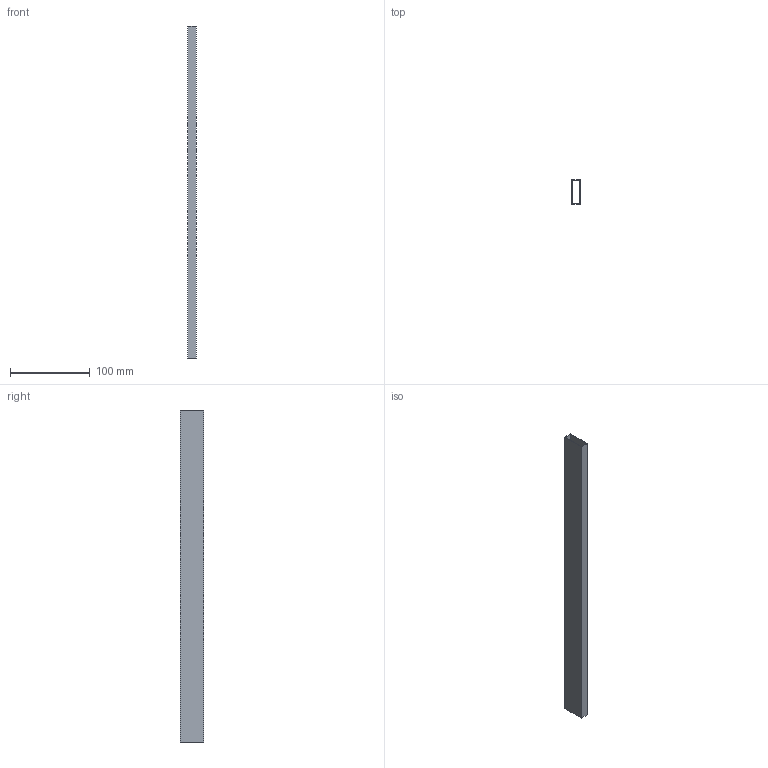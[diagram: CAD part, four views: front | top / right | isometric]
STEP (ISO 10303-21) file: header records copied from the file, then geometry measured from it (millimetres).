
FILE_DESCRIPTION (( 'STEP AP214' ), '1' );
FILE_NAME ('_DWD XP Rechteckreling NL450.step', '2010-07-14T13:27:52', ( 'grass' ), ( '' ), 'SwSTEP 2.0', 'SolidWorks 2010', '' );
FILE_SCHEMA (( 'AUTOMOTIVE_DESIGN' ));
Length unit declared in the file: millimetre
Products named in the file (1): _DWD XP Rechteckreling NL450
Bounding box: 10.5 x 30 x 417.1 mm (x, y, z)
Volume: 19670.4 mm3; surface area: 65662.4 mm2
Topology: 1 solids, 1 shells, 10 faces, 24 edges, 16 vertices
Faces by surface type: plane 10
Entity records: 326 total; most frequent: CARTESIAN_POINT 51, ORIENTED_EDGE 48, DIRECTION 46, VECTOR 24, LINE 24, EDGE_CURVE 24, VERTEX_POINT 16, EDGE_LOOP 12
